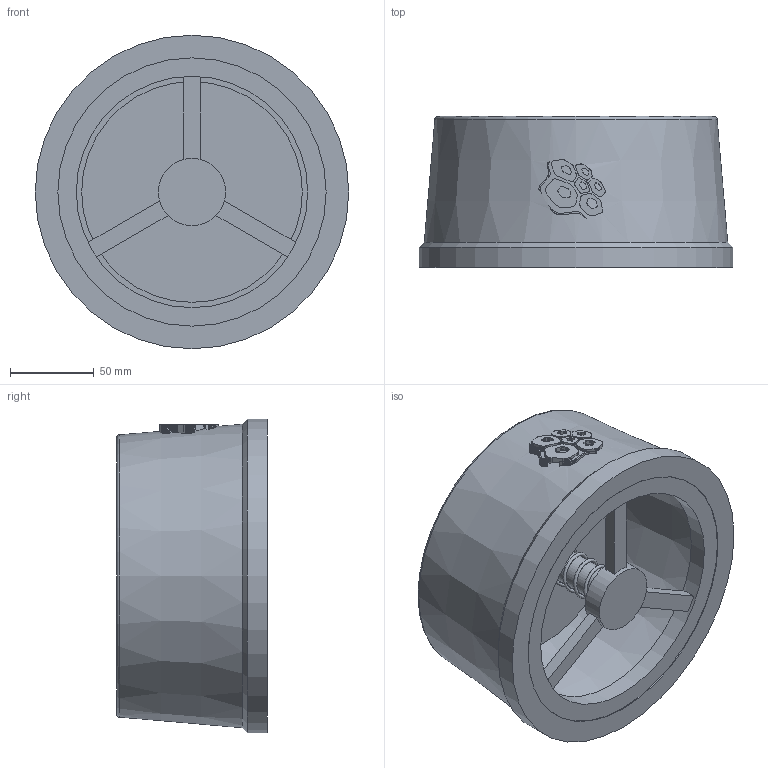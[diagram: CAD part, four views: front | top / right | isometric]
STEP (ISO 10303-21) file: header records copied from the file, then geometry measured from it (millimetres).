
FILE_DESCRIPTION(('STEP AP203'), '1');
FILE_NAME('3D_404-125-40', '', ('UNSPECIFIED'), ('UNSPECIFIED'), 'C3D Converter', 'C3D Toolkit', '');
FILE_SCHEMA(('CONFIG_CONTROL_DESIGN'));
Length unit declared in the file: millimetre
Bounding box: 187 x 90 x 187 mm (x, y, z)
Volume: 791032.2 mm3; surface area: 170780 mm2
Topology: 1 solids, 1 shells, 863 faces, 2529 edges, 1690 vertices
Faces by surface type: plane 844, cone 9, cylinder 8, torus 1, bspline 1
Full cylindrical faces by diameter (mm): 19 x1, 40 x1, 118 x1, 131.6 x1, 138 x1, 160 x2, 187 x1
Entity records: 39966 total; most frequent: CARTESIAN_POINT 11688, ORIENTED_EDGE 5030, DIRECTION 3481, EDGE_CURVE 2515, VERTEX_POINT 1689, LINE 1661, VECTOR 1661, AXIS2_PLACEMENT_3D 910
